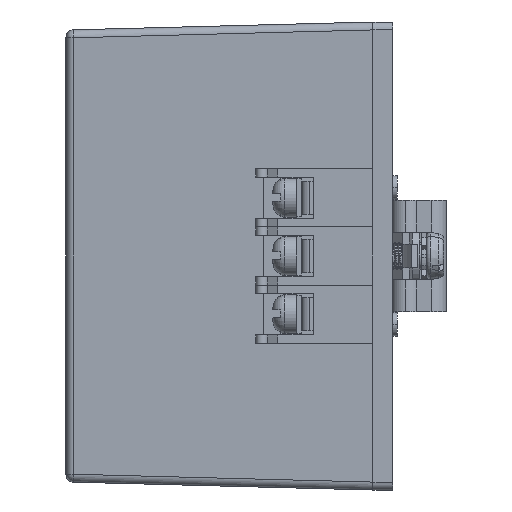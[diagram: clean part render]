
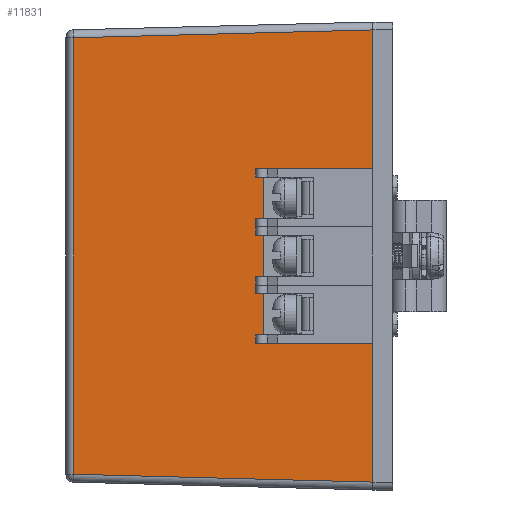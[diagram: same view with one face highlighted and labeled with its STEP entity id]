
A CAD part, left-side view. The second image highlights one B-rep face of the part: STEP entity #11831.
In plain terms, the highlighted planar face has unit normal (-1, 0.026, 0).
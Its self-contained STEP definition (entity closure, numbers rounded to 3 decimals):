
#26 = LINE ( 'NONE', #1709, #17779 ) ;
#68 = EDGE_CURVE ( 'NONE', #1832, #20612, #5245, .T. ) ;
#182 = VERTEX_POINT ( 'NONE', #20415 ) ;
#217 = VERTEX_POINT ( 'NONE', #14857 ) ;
#427 = LINE ( 'NONE', #22873, #9724 ) ;
#456 = VECTOR ( 'NONE', #5004, 1000. ) ;
#866 = EDGE_CURVE ( 'NONE', #3659, #5679, #18143, .T. ) ;
#1190 = DIRECTION ( 'NONE',  ( 0.026, 1., 0. ) ) ;
#1248 = EDGE_CURVE ( 'NONE', #13622, #19797, #427, .T. ) ;
#1363 = EDGE_LOOP ( 'NONE', ( #20123, #18741, #18450, #6645 ) ) ;
#1635 = CARTESIAN_POINT ( 'NONE',  ( -55., -0.01, -8. ) ) ;
#1709 = CARTESIAN_POINT ( 'NONE',  ( -54.96, 1.517, 28.461 ) ) ;
#1832 = VERTEX_POINT ( 'NONE', #9371 ) ;
#1862 = ORIENTED_EDGE ( 'NONE', *, *, #18628, .T. ) ;
#1973 = DIRECTION ( 'NONE',  ( 0., 0., -1. ) ) ;
#2099 = CARTESIAN_POINT ( 'NONE',  ( -54.785, 8.204, -29.5 ) ) ;
#2180 = DIRECTION ( 'NONE',  ( 0.026, 0.999, -0.026 ) ) ;
#2196 = VECTOR ( 'NONE', #16176, 1000. ) ;
#2241 = VECTOR ( 'NONE', #13091, 1000. ) ;
#2243 = LINE ( 'NONE', #23219, #9949 ) ;
#2513 = CARTESIAN_POINT ( 'NONE',  ( -54.759, 9.196, -4.704 ) ) ;
#2642 = VECTOR ( 'NONE', #1190, 1000. ) ;
#2716 = EDGE_LOOP ( 'NONE', ( #4448, #1862, #12661, #2750 ) ) ;
#2750 = ORIENTED_EDGE ( 'NONE', *, *, #13155, .T. ) ;
#3144 = DIRECTION ( 'NONE',  ( -0.026, -1., 0. ) ) ;
#3223 = EDGE_CURVE ( 'NONE', #19797, #15952, #6856, .T. ) ;
#3659 = VERTEX_POINT ( 'NONE', #4133 ) ;
#3764 = VERTEX_POINT ( 'NONE', #20419 ) ;
#3780 = CARTESIAN_POINT ( 'NONE',  ( -54.785, 8.204, 4.704 ) ) ;
#4133 = CARTESIAN_POINT ( 'NONE',  ( -55., 0., -28.5 ) ) ;
#4194 = LINE ( 'NONE', #15036, #11926 ) ;
#4448 = ORIENTED_EDGE ( 'NONE', *, *, #866, .T. ) ;
#4987 = VERTEX_POINT ( 'NONE', #13011 ) ;
#5004 = DIRECTION ( 'NONE',  ( -0.026, -1., 0. ) ) ;
#5128 = LINE ( 'NONE', #17674, #19302 ) ;
#5245 = LINE ( 'NONE', #23459, #456 ) ;
#5597 = ORIENTED_EDGE ( 'NONE', *, *, #1248, .F. ) ;
#5679 = VERTEX_POINT ( 'NONE', #19869 ) ;
#5813 = EDGE_LOOP ( 'NONE', ( #10971, #17475, #10807, #5597 ) ) ;
#5895 = CARTESIAN_POINT ( 'NONE',  ( -55., 0., -29.5 ) ) ;
#6013 = VERTEX_POINT ( 'NONE', #15871 ) ;
#6272 = DIRECTION ( 'NONE',  ( -0.026, -0.999, -0.026 ) ) ;
#6645 = ORIENTED_EDGE ( 'NONE', *, *, #68, .F. ) ;
#6774 = EDGE_CURVE ( 'NONE', #10182, #10132, #16036, .T. ) ;
#6856 = LINE ( 'NONE', #13861, #22164 ) ;
#6900 = EDGE_CURVE ( 'NONE', #182, #4987, #14679, .T. ) ;
#7007 = EDGE_CURVE ( 'NONE', #4987, #21538, #2243, .T. ) ;
#7817 = FACE_BOUND ( 'NONE', #19645, .T. ) ;
#8136 = VECTOR ( 'NONE', #21912, 1000. ) ;
#8896 = CARTESIAN_POINT ( 'NONE',  ( -54.785, 8.204, -29.5 ) ) ;
#8952 = ORIENTED_EDGE ( 'NONE', *, *, #9254, .F. ) ;
#8959 = CARTESIAN_POINT ( 'NONE',  ( -55., 0., -29.5 ) ) ;
#9254 = EDGE_CURVE ( 'NONE', #6013, #182, #14664, .T. ) ;
#9371 = CARTESIAN_POINT ( 'NONE',  ( -54.759, 9.196, 4.704 ) ) ;
#9393 = FACE_OUTER_BOUND ( 'NONE', #2716, .T. ) ;
#9724 = VECTOR ( 'NONE', #16823, 1000. ) ;
#9949 = VECTOR ( 'NONE', #10281, 1000. ) ;
#9965 = CARTESIAN_POINT ( 'NONE',  ( -54.759, 9.196, 1.646 ) ) ;
#10132 = VERTEX_POINT ( 'NONE', #14787 ) ;
#10182 = VERTEX_POINT ( 'NONE', #22753 ) ;
#10187 = VECTOR ( 'NONE', #1973, 1000. ) ;
#10281 = DIRECTION ( 'NONE',  ( 0.026, 1., 0. ) ) ;
#10389 = LINE ( 'NONE', #10513, #23544 ) ;
#10513 = CARTESIAN_POINT ( 'NONE',  ( -54.012, 37.726, -28.487 ) ) ;
#10532 = ORIENTED_EDGE ( 'NONE', *, *, #23727, .F. ) ;
#10807 = ORIENTED_EDGE ( 'NONE', *, *, #3223, .F. ) ;
#10971 = ORIENTED_EDGE ( 'NONE', *, *, #14600, .F. ) ;
#11128 = LINE ( 'NONE', #18505, #10187 ) ;
#11321 = FACE_BOUND ( 'NONE', #1363, .T. ) ;
#11831 = ADVANCED_FACE ( 'NONE', ( #7817, #9393, #16772, #11321 ), #15193, .T. ) ;
#11926 = VECTOR ( 'NONE', #19029, 1000. ) ;
#12271 = CARTESIAN_POINT ( 'NONE',  ( -55., 0.017, 8. ) ) ;
#12302 = CARTESIAN_POINT ( 'NONE',  ( -54.785, 8.204, -29.5 ) ) ;
#12426 = EDGE_CURVE ( 'NONE', #10132, #1832, #5128, .T. ) ;
#12447 = DIRECTION ( 'NONE',  ( 0., 0., -1. ) ) ;
#12627 = VECTOR ( 'NONE', #22366, 1000. ) ;
#12661 = ORIENTED_EDGE ( 'NONE', *, *, #19503, .T. ) ;
#13011 = CARTESIAN_POINT ( 'NONE',  ( -54.785, 8.204, -4.704 ) ) ;
#13091 = DIRECTION ( 'NONE',  ( 0., 0., 1. ) ) ;
#13155 = EDGE_CURVE ( 'NONE', #217, #3659, #17614, .T. ) ;
#13380 = DIRECTION ( 'NONE',  ( -0.026, -1., 0. ) ) ;
#13622 = VERTEX_POINT ( 'NONE', #9965 ) ;
#13633 = CARTESIAN_POINT ( 'NONE',  ( -55.001, -0.026, -28.501 ) ) ;
#13861 = CARTESIAN_POINT ( 'NONE',  ( -55., -0.013, -1.65 ) ) ;
#14388 = DIRECTION ( 'NONE',  ( 0., 0., 1. ) ) ;
#14600 = EDGE_CURVE ( 'NONE', #22453, #13622, #4194, .T. ) ;
#14664 = LINE ( 'NONE', #1635, #8136 ) ;
#14679 = LINE ( 'NONE', #8896, #2241 ) ;
#14787 = CARTESIAN_POINT ( 'NONE',  ( -54.759, 9.196, 7.996 ) ) ;
#14857 = CARTESIAN_POINT ( 'NONE',  ( -54.012, 37.726, -27.512 ) ) ;
#15036 = CARTESIAN_POINT ( 'NONE',  ( -55., 0.014, 1.65 ) ) ;
#15193 = PLANE ( 'NONE',  #22742 ) ;
#15829 = EDGE_CURVE ( 'NONE', #15952, #22453, #23833, .T. ) ;
#15871 = CARTESIAN_POINT ( 'NONE',  ( -54.759, 9.196, -7.996 ) ) ;
#15952 = VERTEX_POINT ( 'NONE', #17048 ) ;
#16036 = LINE ( 'NONE', #12271, #2642 ) ;
#16176 = DIRECTION ( 'NONE',  ( 0., 0., 1. ) ) ;
#16487 = EDGE_CURVE ( 'NONE', #20612, #10182, #21605, .T. ) ;
#16772 = FACE_BOUND ( 'NONE', #5813, .T. ) ;
#16823 = DIRECTION ( 'NONE',  ( 0., 0., -1. ) ) ;
#17048 = CARTESIAN_POINT ( 'NONE',  ( -54.785, 8.204, -1.646 ) ) ;
#17375 = CARTESIAN_POINT ( 'NONE',  ( -54.759, 9.196, -1.646 ) ) ;
#17426 = VECTOR ( 'NONE', #14388, 1000. ) ;
#17475 = ORIENTED_EDGE ( 'NONE', *, *, #15829, .F. ) ;
#17614 = LINE ( 'NONE', #13633, #23518 ) ;
#17674 = CARTESIAN_POINT ( 'NONE',  ( -54.759, 9.196, -29.5 ) ) ;
#17779 = VECTOR ( 'NONE', #2180, 1000. ) ;
#18143 = LINE ( 'NONE', #8959, #17426 ) ;
#18450 = ORIENTED_EDGE ( 'NONE', *, *, #16487, .F. ) ;
#18505 = CARTESIAN_POINT ( 'NONE',  ( -54.759, 9.196, -29.5 ) ) ;
#18628 = EDGE_CURVE ( 'NONE', #5679, #3764, #26, .T. ) ;
#18741 = ORIENTED_EDGE ( 'NONE', *, *, #6774, .F. ) ;
#19029 = DIRECTION ( 'NONE',  ( 0.026, 1., 0. ) ) ;
#19302 = VECTOR ( 'NONE', #23355, 1000. ) ;
#19503 = EDGE_CURVE ( 'NONE', #3764, #217, #10389, .T. ) ;
#19645 = EDGE_LOOP ( 'NONE', ( #10532, #21961, #20231, #8952 ) ) ;
#19797 = VERTEX_POINT ( 'NONE', #17375 ) ;
#19869 = CARTESIAN_POINT ( 'NONE',  ( -55., 0., 28.5 ) ) ;
#20123 = ORIENTED_EDGE ( 'NONE', *, *, #12426, .F. ) ;
#20231 = ORIENTED_EDGE ( 'NONE', *, *, #6900, .F. ) ;
#20415 = CARTESIAN_POINT ( 'NONE',  ( -54.785, 8.204, -7.996 ) ) ;
#20419 = CARTESIAN_POINT ( 'NONE',  ( -54.012, 37.726, 27.512 ) ) ;
#20612 = VERTEX_POINT ( 'NONE', #3780 ) ;
#21538 = VERTEX_POINT ( 'NONE', #2513 ) ;
#21605 = LINE ( 'NONE', #12302, #2196 ) ;
#21912 = DIRECTION ( 'NONE',  ( -0.026, -1., 0. ) ) ;
#21961 = ORIENTED_EDGE ( 'NONE', *, *, #7007, .F. ) ;
#22164 = VECTOR ( 'NONE', #3144, 1000. ) ;
#22366 = DIRECTION ( 'NONE',  ( 0., 0., 1. ) ) ;
#22453 = VERTEX_POINT ( 'NONE', #23821 ) ;
#22560 = DIRECTION ( 'NONE',  ( -1., 0.026, 0. ) ) ;
#22742 = AXIS2_PLACEMENT_3D ( 'NONE', #5895, #22560, #13380 ) ;
#22753 = CARTESIAN_POINT ( 'NONE',  ( -54.785, 8.204, 7.996 ) ) ;
#22873 = CARTESIAN_POINT ( 'NONE',  ( -54.759, 9.196, -29.5 ) ) ;
#23219 = CARTESIAN_POINT ( 'NONE',  ( -55., 0.011, -4.7 ) ) ;
#23355 = DIRECTION ( 'NONE',  ( 0., 0., -1. ) ) ;
#23459 = CARTESIAN_POINT ( 'NONE',  ( -55., -0.016, 4.7 ) ) ;
#23518 = VECTOR ( 'NONE', #6272, 1000. ) ;
#23544 = VECTOR ( 'NONE', #12447, 1000. ) ;
#23727 = EDGE_CURVE ( 'NONE', #21538, #6013, #11128, .T. ) ;
#23821 = CARTESIAN_POINT ( 'NONE',  ( -54.785, 8.204, 1.646 ) ) ;
#23833 = LINE ( 'NONE', #2099, #12627 ) ;
